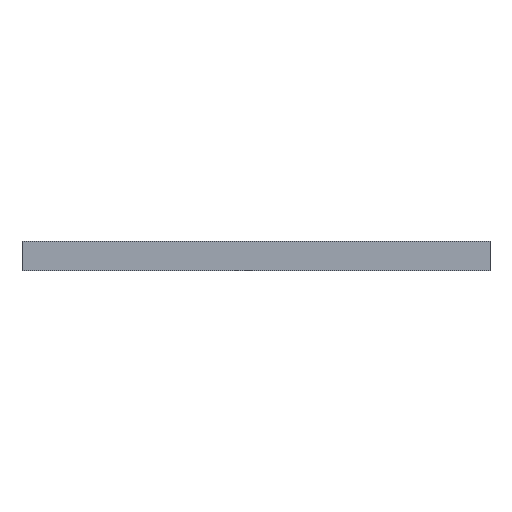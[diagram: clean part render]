
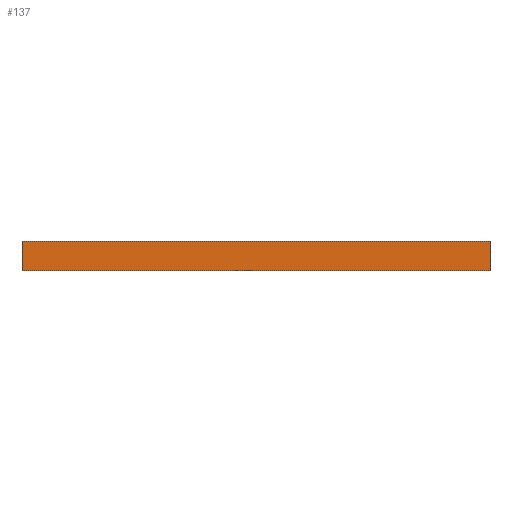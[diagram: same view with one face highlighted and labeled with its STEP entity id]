
A CAD part, front view. The second image highlights one B-rep face of the part: STEP entity #137.
In plain terms, the highlighted planar face has unit normal (0, -1, 0).
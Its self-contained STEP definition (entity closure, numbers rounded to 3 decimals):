
#21 = EDGE_CURVE('',#22,#24,#26,.T.);
#22 = VERTEX_POINT('',#23);
#23 = CARTESIAN_POINT('',(0.,0.,0.));
#24 = VERTEX_POINT('',#25);
#25 = CARTESIAN_POINT('',(0.,0.,3.));
#26 = SURFACE_CURVE('',#27,(#31,#43),.PCURVE_S1.);
#27 = LINE('',#28,#29);
#28 = CARTESIAN_POINT('',(0.,0.,0.));
#29 = VECTOR('',#30,1.);
#30 = DIRECTION('',(0.,0.,1.));
#31 = PCURVE('',#32,#37);
#32 = PLANE('',#33);
#33 = AXIS2_PLACEMENT_3D('',#34,#35,#36);
#34 = CARTESIAN_POINT('',(0.,0.,0.));
#35 = DIRECTION('',(1.,0.,0.));
#36 = DIRECTION('',(0.,0.,1.));
#37 = DEFINITIONAL_REPRESENTATION('',(#38),#42);
#38 = LINE('',#39,#40);
#39 = CARTESIAN_POINT('',(0.,0.));
#40 = VECTOR('',#41,1.);
#41 = DIRECTION('',(1.,0.));
#42 = ( GEOMETRIC_REPRESENTATION_CONTEXT(2) 
PARAMETRIC_REPRESENTATION_CONTEXT() REPRESENTATION_CONTEXT('2D SPACE',''
  ) );
#43 = PCURVE('',#44,#49);
#44 = PLANE('',#45);
#45 = AXIS2_PLACEMENT_3D('',#46,#47,#48);
#46 = CARTESIAN_POINT('',(0.,0.,0.));
#47 = DIRECTION('',(0.,1.,0.));
#48 = DIRECTION('',(0.,0.,1.));
#49 = DEFINITIONAL_REPRESENTATION('',(#50),#54);
#50 = LINE('',#51,#52);
#51 = CARTESIAN_POINT('',(0.,0.));
#52 = VECTOR('',#53,1.);
#53 = DIRECTION('',(1.,0.));
#54 = ( GEOMETRIC_REPRESENTATION_CONTEXT(2) 
PARAMETRIC_REPRESENTATION_CONTEXT() REPRESENTATION_CONTEXT('2D SPACE',''
  ) );
#72 = PLANE('',#73);
#73 = AXIS2_PLACEMENT_3D('',#74,#75,#76);
#74 = CARTESIAN_POINT('',(0.,0.,0.));
#75 = DIRECTION('',(0.,0.,1.));
#76 = DIRECTION('',(1.,0.,0.));
#126 = PLANE('',#127);
#127 = AXIS2_PLACEMENT_3D('',#128,#129,#130);
#128 = CARTESIAN_POINT('',(0.,0.,3.));
#129 = DIRECTION('',(0.,0.,1.));
#130 = DIRECTION('',(1.,0.,0.));
#137 = ADVANCED_FACE('',(#138),#44,.F.);
#138 = FACE_BOUND('',#139,.F.);
#139 = EDGE_LOOP('',(#140,#163,#164,#187));
#140 = ORIENTED_EDGE('',*,*,#141,.F.);
#141 = EDGE_CURVE('',#22,#142,#144,.T.);
#142 = VERTEX_POINT('',#143);
#143 = CARTESIAN_POINT('',(48.,0.,0.));
#144 = SURFACE_CURVE('',#145,(#149,#156),.PCURVE_S1.);
#145 = LINE('',#146,#147);
#146 = CARTESIAN_POINT('',(0.,0.,0.));
#147 = VECTOR('',#148,1.);
#148 = DIRECTION('',(1.,0.,0.));
#149 = PCURVE('',#44,#150);
#150 = DEFINITIONAL_REPRESENTATION('',(#151),#155);
#151 = LINE('',#152,#153);
#152 = CARTESIAN_POINT('',(0.,0.));
#153 = VECTOR('',#154,1.);
#154 = DIRECTION('',(0.,1.));
#155 = ( GEOMETRIC_REPRESENTATION_CONTEXT(2) 
PARAMETRIC_REPRESENTATION_CONTEXT() REPRESENTATION_CONTEXT('2D SPACE',''
  ) );
#156 = PCURVE('',#72,#157);
#157 = DEFINITIONAL_REPRESENTATION('',(#158),#162);
#158 = LINE('',#159,#160);
#159 = CARTESIAN_POINT('',(0.,0.));
#160 = VECTOR('',#161,1.);
#161 = DIRECTION('',(1.,0.));
#162 = ( GEOMETRIC_REPRESENTATION_CONTEXT(2) 
PARAMETRIC_REPRESENTATION_CONTEXT() REPRESENTATION_CONTEXT('2D SPACE',''
  ) );
#163 = ORIENTED_EDGE('',*,*,#21,.T.);
#164 = ORIENTED_EDGE('',*,*,#165,.T.);
#165 = EDGE_CURVE('',#24,#166,#168,.T.);
#166 = VERTEX_POINT('',#167);
#167 = CARTESIAN_POINT('',(48.,0.,3.));
#168 = SURFACE_CURVE('',#169,(#173,#180),.PCURVE_S1.);
#169 = LINE('',#170,#171);
#170 = CARTESIAN_POINT('',(0.,0.,3.));
#171 = VECTOR('',#172,1.);
#172 = DIRECTION('',(1.,0.,0.));
#173 = PCURVE('',#44,#174);
#174 = DEFINITIONAL_REPRESENTATION('',(#175),#179);
#175 = LINE('',#176,#177);
#176 = CARTESIAN_POINT('',(3.,0.));
#177 = VECTOR('',#178,1.);
#178 = DIRECTION('',(0.,1.));
#179 = ( GEOMETRIC_REPRESENTATION_CONTEXT(2) 
PARAMETRIC_REPRESENTATION_CONTEXT() REPRESENTATION_CONTEXT('2D SPACE',''
  ) );
#180 = PCURVE('',#126,#181);
#181 = DEFINITIONAL_REPRESENTATION('',(#182),#186);
#182 = LINE('',#183,#184);
#183 = CARTESIAN_POINT('',(0.,0.));
#184 = VECTOR('',#185,1.);
#185 = DIRECTION('',(1.,0.));
#186 = ( GEOMETRIC_REPRESENTATION_CONTEXT(2) 
PARAMETRIC_REPRESENTATION_CONTEXT() REPRESENTATION_CONTEXT('2D SPACE',''
  ) );
#187 = ORIENTED_EDGE('',*,*,#188,.F.);
#188 = EDGE_CURVE('',#142,#166,#189,.T.);
#189 = SURFACE_CURVE('',#190,(#194,#201),.PCURVE_S1.);
#190 = LINE('',#191,#192);
#191 = CARTESIAN_POINT('',(48.,0.,0.));
#192 = VECTOR('',#193,1.);
#193 = DIRECTION('',(0.,0.,1.));
#194 = PCURVE('',#44,#195);
#195 = DEFINITIONAL_REPRESENTATION('',(#196),#200);
#196 = LINE('',#197,#198);
#197 = CARTESIAN_POINT('',(0.,48.));
#198 = VECTOR('',#199,1.);
#199 = DIRECTION('',(1.,0.));
#200 = ( GEOMETRIC_REPRESENTATION_CONTEXT(2) 
PARAMETRIC_REPRESENTATION_CONTEXT() REPRESENTATION_CONTEXT('2D SPACE',''
  ) );
#201 = PCURVE('',#202,#207);
#202 = PLANE('',#203);
#203 = AXIS2_PLACEMENT_3D('',#204,#205,#206);
#204 = CARTESIAN_POINT('',(48.,0.,0.));
#205 = DIRECTION('',(1.,0.,0.));
#206 = DIRECTION('',(0.,0.,1.));
#207 = DEFINITIONAL_REPRESENTATION('',(#208),#212);
#208 = LINE('',#209,#210);
#209 = CARTESIAN_POINT('',(0.,0.));
#210 = VECTOR('',#211,1.);
#211 = DIRECTION('',(1.,0.));
#212 = ( GEOMETRIC_REPRESENTATION_CONTEXT(2) 
PARAMETRIC_REPRESENTATION_CONTEXT() REPRESENTATION_CONTEXT('2D SPACE',''
  ) );
